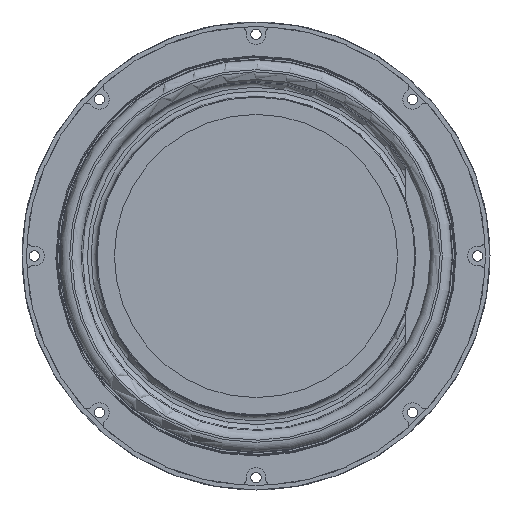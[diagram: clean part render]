
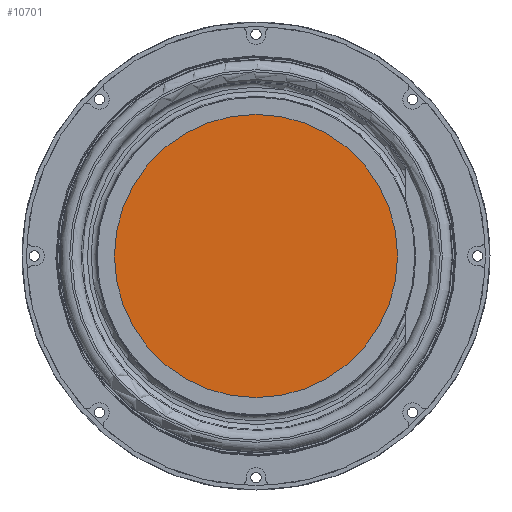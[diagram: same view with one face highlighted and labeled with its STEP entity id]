
A CAD part, front view. The second image highlights one B-rep face of the part: STEP entity #10701.
In plain terms, the highlighted planar face has unit normal (0, -1, 0).
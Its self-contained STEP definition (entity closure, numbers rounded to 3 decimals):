
#2584=FACE_OUTER_BOUND('',#3205,.T.);
#3205=EDGE_LOOP('',(#9791));
#3842=CIRCLE('',#11832,82.41);
#4910=VERTEX_POINT('',#31241);
#6552=EDGE_CURVE('',#4910,#4910,#3842,.T.);
#9791=ORIENTED_EDGE('',*,*,#6552,.T.);
#10145=PLANE('',#11833);
#10701=ADVANCED_FACE('',(#2584),#10145,.T.);
#11832=AXIS2_PLACEMENT_3D('',#31242,#14551,#14552);
#11833=AXIS2_PLACEMENT_3D('',#31244,#14554,#14555);
#14551=DIRECTION('center_axis',(0.,-1.,0.));
#14552=DIRECTION('ref_axis',(-1.,0.,0.));
#14554=DIRECTION('center_axis',(0.,-1.,0.));
#14555=DIRECTION('ref_axis',(-1.,0.,0.));
#31241=CARTESIAN_POINT('',(82.565,-42.192,0.));
#31242=CARTESIAN_POINT('Origin',(0.155,-42.192,0.));
#31244=CARTESIAN_POINT('Origin',(0.155,-42.192,0.));
